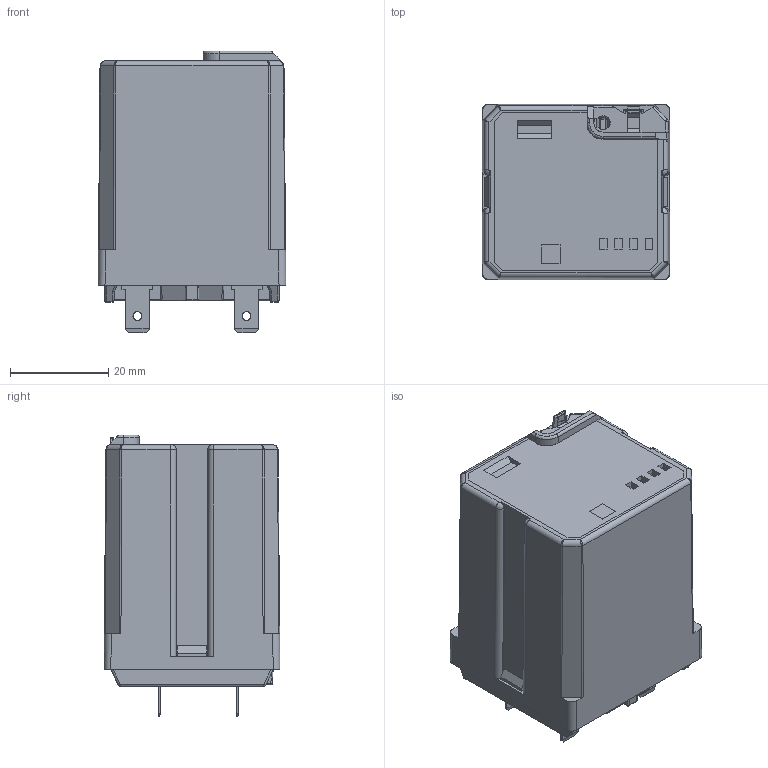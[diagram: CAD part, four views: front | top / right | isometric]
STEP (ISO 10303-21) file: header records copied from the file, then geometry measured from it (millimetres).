
FILE_DESCRIPTION(('STEP AP214'),'2;1');
FILE_NAME('6231-4800.stp','2014-07-10T14:18:41',(''),(''),'2007.1.106','THINKDESIGN','');
FILE_SCHEMA(('AUTOMOTIVE_DESIGN'));
Length unit declared in the file: millimetre
Products named in the file (1): top
Bounding box: 38.2 x 35.8 x 57.3 mm (x, y, z)
Surface area: 11208.5 mm2 (no closed solid volume)
Topology: 0 solids, 0 shells, 447 faces, 2514 edges, 2477 vertices
Faces by surface type: plane 259, cylinder 115, bspline 73
Full cylindrical faces by diameter (mm): 1.8 x4, 5 x1
Entity records: 24913 total; most frequent: CARTESIAN_POINT 10867, DIRECTION 2903, COMPOSITE_CURVE_SEGMENT 2491, TRIMMED_CURVE 2008, VECTOR 1883, LINE 1883, AXIS2_PLACEMENT_3D 510, OUTER_BOUNDARY_CURVE 447
